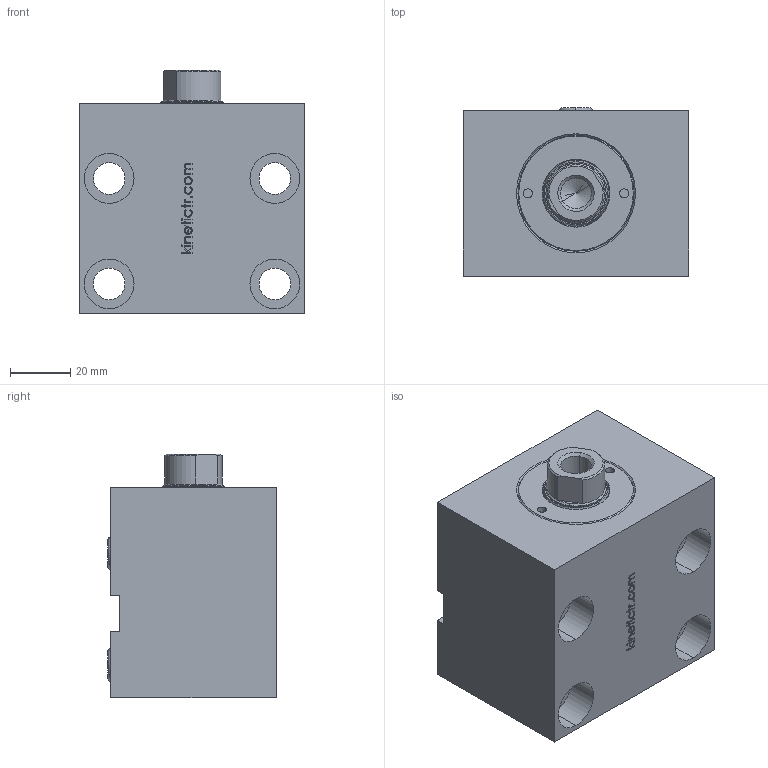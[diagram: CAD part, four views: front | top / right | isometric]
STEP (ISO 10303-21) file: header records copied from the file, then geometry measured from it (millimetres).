
FILE_DESCRIPTION (( 'STEP AP214' ), '1' );
FILE_NAME ('KBZ_11_32_20_20_W.STEP', '2019-09-15T14:53:28', ( '' ), ( '' ), 'SwSTEP 2.0', 'SolidWorks 2018', '' );
FILE_SCHEMA (( 'AUTOMOTIVE_DESIGN' ));
Length unit declared in the file: millimetre
Products named in the file (6): KBZ_11_32_ON_kapak_W; KO-6X2_5; KBZ_11_20_MIL_W; kbz_11_32_20_govde_W; K06-20X25X4_3X6; KBZ_11_32_20_20_W
Assembly tree (6 placements, depth 2):
  KBZ_11_32_20_20_W
    kbz_11_32_20_govde_W
    KBZ_11_20_MIL_W
    KBZ_11_32_ON_kapak_W
    K06-20X25X4_3X6
    KO-6X2_5  x2
Bounding box: 75 x 56 x 81 mm (x, y, z)
Volume: 255079.8 mm3; surface area: 49315.8 mm2
Topology: 6 solids, 6 shells, 325 faces, 785 edges, 504 vertices
Faces by surface type: plane 137, bspline 77, cylinder 62, cone 49
Entity records: 12988 total; most frequent: CARTESIAN_POINT 5553, ORIENTED_EDGE 1550, DIRECTION 1308, EDGE_CURVE 775, VERTEX_POINT 500, VECTOR 438, LINE 438, AXIS2_PLACEMENT_3D 435
